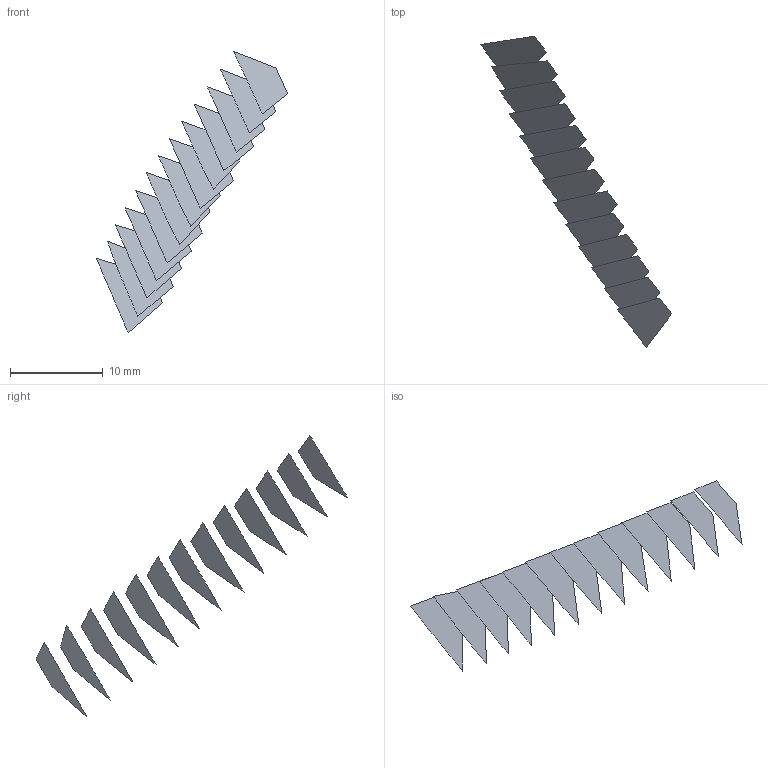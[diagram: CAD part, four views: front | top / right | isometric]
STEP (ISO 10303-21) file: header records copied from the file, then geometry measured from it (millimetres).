
FILE_DESCRIPTION(('FreeCAD Model'),'2;1');
FILE_NAME('Open CASCADE Shape Model','2022-05-22T07:50:32',('FreeCAD'),( 'FreeCAD'),'Open CASCADE STEP processor 7.5','FreeCAD','Unknown');
FILE_SCHEMA(('AUTOMOTIVE_DESIGN { 1 0 10303 214 1 1 1 1 }'));
Length unit declared in the file: millimetre
Products named in the file (14): Open CASCADE STEP translator 7.5 7; Open CASCADE STEP translator 7.5 7.1; Open CASCADE STEP translator 7.5 7.2; Open CASCADE STEP translator 7.5 7.3; Open CASCADE STEP translator 7.5 7.4; Open CASCADE STEP translator 7.5 7.5; Open CASCADE STEP translator 7.5 7.6; Open CASCADE STEP translator 7.5 7.7; Open CASCADE STEP translator 7.5 7.8; Open CASCADE STEP translator 7.5 7.9; Open CASCADE STEP translator 7.5 7.10; Open CASCADE STEP translator 7.5 7.11; Open CASCADE STEP translator 7.5 7.12; Open CASCADE STEP translator 7.5 7.13
Assembly tree (13 placements, depth 2):
  Open CASCADE STEP translator 7.5 7
    Open CASCADE STEP translator 7.5 7.1
    Open CASCADE STEP translator 7.5 7.2
    Open CASCADE STEP translator 7.5 7.3
    Open CASCADE STEP translator 7.5 7.4
    Open CASCADE STEP translator 7.5 7.5
    Open CASCADE STEP translator 7.5 7.6
    Open CASCADE STEP translator 7.5 7.7
    Open CASCADE STEP translator 7.5 7.8
    Open CASCADE STEP translator 7.5 7.9
    Open CASCADE STEP translator 7.5 7.10
    Open CASCADE STEP translator 7.5 7.11
    Open CASCADE STEP translator 7.5 7.12
    Open CASCADE STEP translator 7.5 7.13
Bounding box: 20.63 x 33.62 x 30.33 mm (x, y, z)
Surface area: 425.5 mm2 (no closed solid volume)
Topology: 0 solids, 13 shells, 13 faces, 274 edges, 274 vertices
Faces by surface type: bspline 13
Entity records: 3942 total; most frequent: CARTESIAN_POINT 1436, B_SPLINE_CURVE_WITH_KNOTS 548, ORIENTED_EDGE 274, EDGE_CURVE 274, VERTEX_POINT 274, SURFACE_CURVE 274, PCURVE 274, DEFINITIONAL_REPRESENTATION 274
